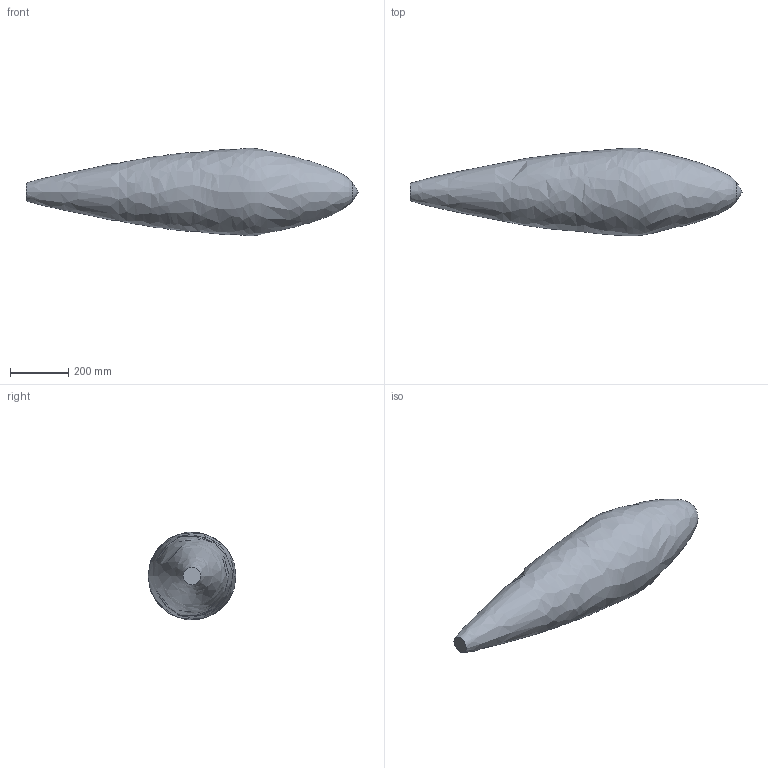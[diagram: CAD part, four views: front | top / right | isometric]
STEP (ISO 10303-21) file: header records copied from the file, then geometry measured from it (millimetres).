
FILE_DESCRIPTION((''),'2;1');
FILE_NAME('J:\Projekte\Kunststoff-Blechteile\Zeichnungen\Bibliothek Inventor\3D Solids\nero\STP\nero-100\detection range 100 pipe.stp','2012-02-27T15:14:04',('Oliver Liedtke'),(''),'Autodesk Inventor 2009','Autodesk Inventor 2009','');
FILE_SCHEMA(('AUTOMOTIVE_DESIGN { 1 0 10303 214 1 1 1 1 }'));
Length unit declared in the file: millimetre
Products named in the file (1): detection range 100 pipe
Bounding box: 1140 x 301.48 x 300.15 mm (x, y, z)
Volume: 44109173 mm3; surface area: 774341.2 mm2
Topology: 1 solids, 1 shells, 3 faces, 5 edges, 3 vertices
Faces by surface type: revolution 2, plane 1
Entity records: 133 total; most frequent: CARTESIAN_POINT 43, DIRECTION 10, ORIENTED_EDGE 8, AXIS2_PLACEMENT_3D 4, EDGE_CURVE 4, VERTEX_POINT 3, EDGE_LOOP 3, FACE_OUTER_BOUND 3
